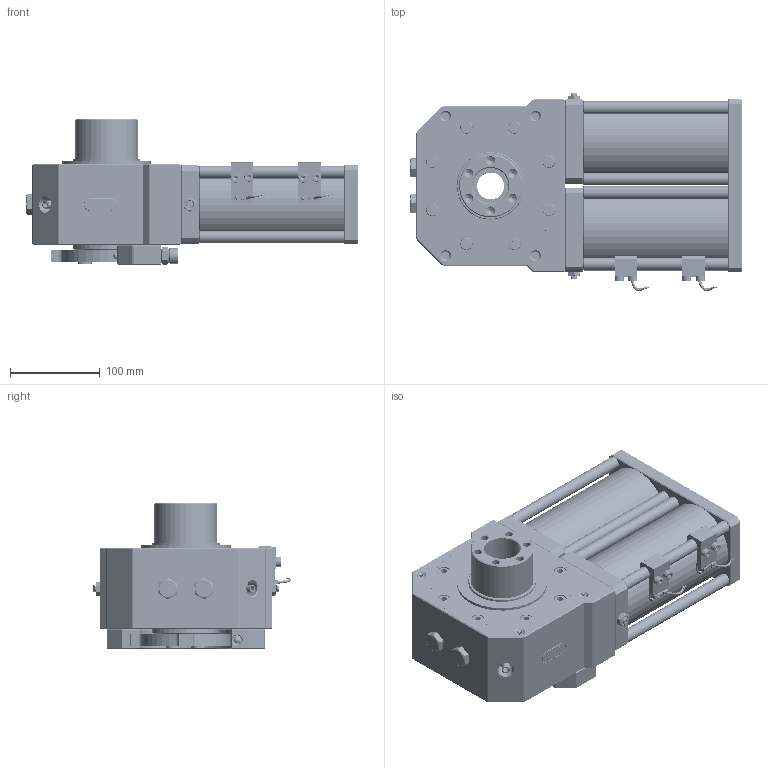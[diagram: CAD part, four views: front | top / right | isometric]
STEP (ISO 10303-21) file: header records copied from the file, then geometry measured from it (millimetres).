
FILE_DESCRIPTION((''),'2;1');
FILE_NAME('C:\Users\RND-KDY\Desktop\RJC\RJC80-90_190409.stp','2019-04-09T14:14:40',('RND-KDY'),(''),'Autodesk Inventor 2013','Autodesk Inventor 2013','');
FILE_SCHEMA(('AUTOMOTIVE_DESIGN { 1 0 10303 214 1 1 1 1 }'));
Length unit declared in the file: millimetre
Products named in the file (75): RJC80-180_L1102 (세부 수준1); Part19; Part20; Part22; Part28; Part29; Part31; Part34; Part39; Part41; Part42; Part45; Part46; Part48; Part54; Part56; Part57; Part59; Part60; Part61; Part62; Part63; Part64; Part65; Part66; Part67_1; Part68; j01n; 조립품9; 어셈블리7_MIR; HOUSING_MIR; 파트7_MIR; Part51_MIR; Part57_MIR; Part57_1_MIR; 파트19_MIR; 3DM306_MIR; 파트30_MIR; ISO 4762 M6 x 10; 부품87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
Assembly tree (79 placements, depth 5):
  RJC80-180_L1102 (세부 수준1)
    Part19
    Part20
    Part22
    Part28
    Part29
    Part31
    Part34
    Part39
    Part41
    Part42
    Part45
    Part46
    Part48
    Part54
    Part56
    Part57
    Part59
    Part60
    Part61
    Part62
    Part63
    Part64
    Part65
    Part66
    Part67_1
    Part68
    j01n  x2
      조립품9
        어셈블리7_MIR
          HOUSING_MIR
          파트7_MIR
          Part51_MIR
          Part57_MIR
          Part57_1_MIR
          파트19_MIR
          3DM306_MIR
          파트30_MIR
        ISO 4762 M6 x 10  x2
        부품87
    부품122
    ISO 4762 M10 x 16  x4
    Part31_MIR
    조립품7
      Part14
      Part15
      Part16
      Part17
      Part18
      Part35
      Part36
      Part37
      Part49
    Assembly603
      Part67
      Text3D - www.jrtfa
      Text3D - RJC80-90-RS
      본체
      JRT
      Part60
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Bounding box: 369 x 220.29 x 162 mm (x, y, z)
Volume: 5374208.4 mm3; surface area: 681781.5 mm2
Topology: 106 solids, 106 shells, 5946 faces, 15115 edges, 9667 vertices
Faces by surface type: plane 4412, cone 775, cylinder 687, torus 49, sphere 16, bspline 7
Full cylindrical faces by diameter (mm): 2.1 x2, 2.8 x2, 3 x5, 3.8 x10, 4.134 x24, 4.16 x16, 4.917 x4, 5 x24, 5.2 x4, 6 x5, 6.614 x20, 6.647 x1, 7 x1, 8 x26, 8.268 x172, 8.376 x10, 8.5 x16, 9 x2, 10 x188, 11 x6, 13 x2, 13.6 x16, 14 x24, 16 x6, 17 x11, 30 x1, 38 x1, 40 x2, 50 x4, 65 x4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
Entity records: 170102 total; most frequent: CARTESIAN_POINT 29363, DIRECTION 26442, ORIENTED_EDGE 26200, EDGE_CURVE 13100, VECTOR 11298, LINE 11298, VERTEX_POINT 9214, AXIS2_PLACEMENT_3D 7572
